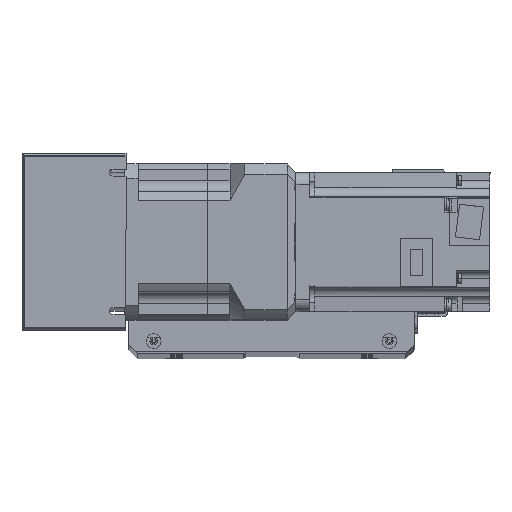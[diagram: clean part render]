
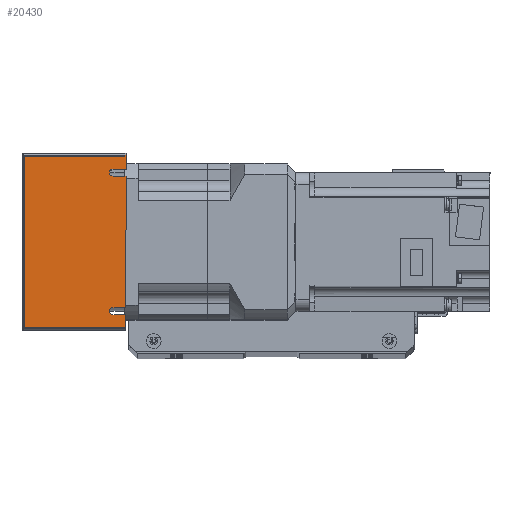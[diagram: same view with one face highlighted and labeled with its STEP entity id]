
A CAD part, top view. The second image highlights one B-rep face of the part: STEP entity #20430.
In plain terms, the highlighted planar face has unit normal (0, 0, 1) as drawn and (-1, 0, 0) by its records, which use the part's own axes.
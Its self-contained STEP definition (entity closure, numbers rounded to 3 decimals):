
#601=PLANE('',#22288);
#1689=LINE('',#32847,#3349);
#1695=LINE('',#32861,#3355);
#1707=LINE('',#32888,#3367);
#1717=LINE('',#32910,#3377);
#1725=LINE('',#32930,#3385);
#1726=LINE('',#32932,#3386);
#1727=LINE('',#32934,#3387);
#1728=LINE('',#32936,#3388);
#1729=LINE('',#32937,#3389);
#1730=LINE('',#32939,#3390);
#3349=VECTOR('',#26608,10.);
#3355=VECTOR('',#26618,10.);
#3367=VECTOR('',#26636,10.);
#3377=VECTOR('',#26650,10.);
#3385=VECTOR('',#26672,10.);
#3386=VECTOR('',#26673,10.);
#3387=VECTOR('',#26674,10.);
#3388=VECTOR('',#26675,10.);
#3389=VECTOR('',#26676,10.);
#3390=VECTOR('',#26679,10.);
#5447=FACE_OUTER_BOUND('',#6951,.T.);
#6951=EDGE_LOOP('',(#16468,#16469,#16470,#16471,#16472,#16473,#16474,#16475,
#16476,#16477,#16478,#16479));
#8419=CIRCLE('',#22283,2.);
#8423=CIRCLE('',#22289,2.);
#9888=VERTEX_POINT('',#32844);
#9889=VERTEX_POINT('',#32846);
#9894=VERTEX_POINT('',#32859);
#9895=VERTEX_POINT('',#32860);
#9906=VERTEX_POINT('',#32886);
#9907=VERTEX_POINT('',#32887);
#9916=VERTEX_POINT('',#32907);
#9917=VERTEX_POINT('',#32909);
#9922=VERTEX_POINT('',#32929);
#9923=VERTEX_POINT('',#32931);
#9924=VERTEX_POINT('',#32933);
#9925=VERTEX_POINT('',#32935);
#12271=EDGE_CURVE('',#9889,#9888,#1689,.T.);
#12277=EDGE_CURVE('',#9894,#9895,#1695,.T.);
#12289=EDGE_CURVE('',#9906,#9907,#1707,.T.);
#12299=EDGE_CURVE('',#9917,#9916,#1717,.T.);
#12301=EDGE_CURVE('',#9895,#9889,#8419,.T.);
#12311=EDGE_CURVE('',#9922,#9888,#1725,.T.);
#12312=EDGE_CURVE('',#9923,#9922,#1726,.T.);
#12313=EDGE_CURVE('',#9924,#9923,#1727,.T.);
#12314=EDGE_CURVE('',#9925,#9924,#1728,.T.);
#12315=EDGE_CURVE('',#9906,#9925,#1729,.T.);
#12316=EDGE_CURVE('',#9907,#9917,#8423,.T.);
#12317=EDGE_CURVE('',#9894,#9916,#1730,.T.);
#16468=ORIENTED_EDGE('',*,*,#12271,.T.);
#16469=ORIENTED_EDGE('',*,*,#12311,.F.);
#16470=ORIENTED_EDGE('',*,*,#12312,.F.);
#16471=ORIENTED_EDGE('',*,*,#12313,.F.);
#16472=ORIENTED_EDGE('',*,*,#12314,.F.);
#16473=ORIENTED_EDGE('',*,*,#12315,.F.);
#16474=ORIENTED_EDGE('',*,*,#12289,.T.);
#16475=ORIENTED_EDGE('',*,*,#12316,.T.);
#16476=ORIENTED_EDGE('',*,*,#12299,.T.);
#16477=ORIENTED_EDGE('',*,*,#12317,.F.);
#16478=ORIENTED_EDGE('',*,*,#12277,.T.);
#16479=ORIENTED_EDGE('',*,*,#12301,.T.);
#20430=ADVANCED_FACE('',(#5447),#601,.T.);
#22283=AXIS2_PLACEMENT_3D('',#32913,#26654,#26655);
#22288=AXIS2_PLACEMENT_3D('',#32928,#26670,#26671);
#22289=AXIS2_PLACEMENT_3D('',#32938,#26677,#26678);
#26608=DIRECTION('',(0.,0.,1.));
#26618=DIRECTION('',(0.,0.,-1.));
#26636=DIRECTION('',(0.,0.,-1.));
#26650=DIRECTION('',(0.,0.,1.));
#26654=DIRECTION('center_axis',(1.,0.,0.));
#26655=DIRECTION('ref_axis',(0.,0.,-1.));
#26670=DIRECTION('center_axis',(-1.,0.,0.));
#26671=DIRECTION('ref_axis',(0.,-1.,0.));
#26672=DIRECTION('',(0.,-1.,0.));
#26673=DIRECTION('',(0.,0.,1.));
#26674=DIRECTION('',(0.,1.,0.));
#26675=DIRECTION('',(0.,0.,-1.));
#26676=DIRECTION('',(0.,-1.,0.));
#26677=DIRECTION('center_axis',(1.,0.,0.));
#26678=DIRECTION('ref_axis',(0.,0.,-1.));
#26679=DIRECTION('',(0.,-1.,0.));
#32844=CARTESIAN_POINT('',(-120.5,42.,30.));
#32846=CARTESIAN_POINT('',(-120.5,42.,22.5));
#32847=CARTESIAN_POINT('',(-120.5,42.,16.304));
#32859=CARTESIAN_POINT('',(-120.5,38.,30.));
#32860=CARTESIAN_POINT('',(-120.5,38.,22.5));
#32861=CARTESIAN_POINT('',(-120.5,38.,11.25));
#32886=CARTESIAN_POINT('',(-120.5,-42.,30.));
#32887=CARTESIAN_POINT('',(-120.5,-42.,22.5));
#32888=CARTESIAN_POINT('',(-120.5,-42.,11.25));
#32907=CARTESIAN_POINT('',(-120.5,-38.,30.));
#32909=CARTESIAN_POINT('',(-120.5,-38.,22.5));
#32910=CARTESIAN_POINT('',(-120.5,-38.,16.169));
#32913=CARTESIAN_POINT('Origin',(-120.5,40.,22.5));
#32928=CARTESIAN_POINT('Origin',(-120.5,51.,0.));
#32929=CARTESIAN_POINT('',(-120.5,50.,30.));
#32930=CARTESIAN_POINT('',(-120.5,-51.,30.));
#32931=CARTESIAN_POINT('',(-120.5,50.,-29.));
#32932=CARTESIAN_POINT('',(-120.5,50.,0.));
#32933=CARTESIAN_POINT('',(-120.5,-50.,-29.));
#32934=CARTESIAN_POINT('',(-120.5,25.5,-29.));
#32935=CARTESIAN_POINT('',(-120.5,-50.,30.));
#32936=CARTESIAN_POINT('',(-120.5,-50.,0.));
#32937=CARTESIAN_POINT('',(-120.5,-51.,30.));
#32938=CARTESIAN_POINT('Origin',(-120.5,-40.,22.5));
#32939=CARTESIAN_POINT('',(-120.5,-51.,30.));
